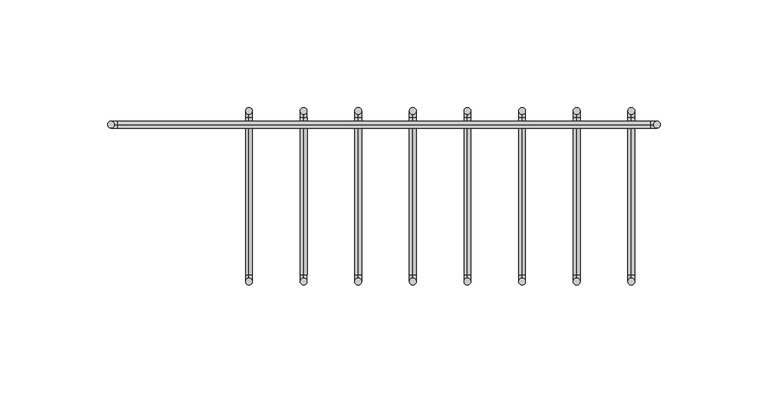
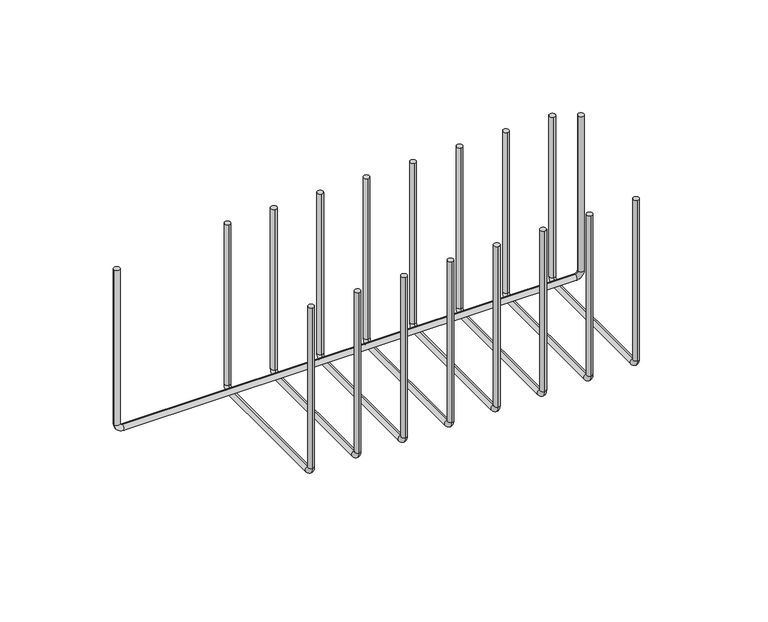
"""IFC4 building model written with IfcOpenShell, lengths in millimetres: furniture geometry."""

from ifc_helpers import new_model, si_unit, point, frame, origin, place, context, project, spatial, circle_curve, ellipse_curve, trimmed, source, transform, mapped, element, save
from ifc_brep_helpers import plane_surface, cylinder_surface, revolved_surface, advanced_brep


def furniture_d1ba1244(model_context):
    return source(origin(), model_context, "Body", "AdvancedBrep", [
        advanced_brep(
        [(115.00358, -82.4773724, 821.0042), (115.00358, -79.3023724, 821.0042), (115.00358, 0.0726276, 821.0042), (115.00358, -3.1023724, 821.0042), (115.00358, -82.4773724, 728.1359034), (115.00358, -79.3023724, 728.1359034), (115.00358, -77.7148724, 726.5484034), (115.00358, -77.7148724, 723.3734034), (115.00358, -4.6898724, 723.3734034), (115.00358, -4.6898724, 726.5484034), (115.00358, -3.1023724, 728.1359034), (115.00358, 0.0726276, 728.1359034)],
        [
            (0, 1, circle_curve(frame((115.00358, -80.8898724, 821.0042), z_axis=(0.0, 0.0, 1.0), x_axis=(1.0, 0.0, 0.0)), 1.5875)),
            (1, 0, circle_curve(frame((115.00358, -80.8898724, 821.0042), z_axis=(0.0, 0.0, 1.0), x_axis=(1.0, 0.0, 0.0)), 1.5875)),
            (2, 3, circle_curve(frame((115.00358, -1.5148724, 821.0042), z_axis=(0.0, 0.0, 1.0), x_axis=(1.0, 0.0, 0.0)), 1.5875)),
            (3, 2, circle_curve(frame((115.00358, -1.5148724, 821.0042), z_axis=(0.0, 0.0, 1.0), x_axis=(1.0, 0.0, 0.0)), 1.5875)),
            (0, 4),
            (4, 5, circle_curve(frame((115.00358, -80.8898724, 728.1359034), z_axis=(0.0, 0.0, 1.0), x_axis=(1.0, 0.0, 0.0)), 1.5875)),
            (5, 1),
            (5, 4, circle_curve(frame((115.00358, -80.8898724, 728.1359034), z_axis=(0.0, 0.0, 1.0), x_axis=(1.0, 0.0, 0.0)), 1.5875)),
            (6, 7, circle_curve(frame((115.00358, -77.7148724, 724.9609034), z_axis=(0.0, 1.0, 0.0), x_axis=(1.0, 0.0, 0.0)), 1.5875)),
            (7, 8),
            (8, 9, circle_curve(frame((115.00358, -4.6898724, 724.9609034), z_axis=(0.0, -1.0, 0.0), x_axis=(1.0, 0.0, 0.0)), 1.5875)),
            (9, 6),
            (7, 6, circle_curve(frame((115.00358, -77.7148724, 724.9609034), z_axis=(0.0, 1.0, 0.0), x_axis=(1.0, 0.0, 0.0)), 1.5875)),
            (9, 8, circle_curve(frame((115.00358, -4.6898724, 724.9609034), z_axis=(0.0, -1.0, 0.0), x_axis=(1.0, 0.0, 0.0)), 1.5875)),
            (10, 11, circle_curve(frame((115.00358, -1.5148724, 728.1359034), z_axis=(0.0, 0.0, 1.0), x_axis=(1.0, 0.0, 0.0)), 1.5875)),
            (11, 2),
            (3, 10),
            (11, 10, circle_curve(frame((115.00358, -1.5148724, 728.1359034), z_axis=(0.0, 0.0, 1.0), x_axis=(1.0, 0.0, 0.0)), 1.5875)),
            (6, 5, circle_curve(frame((115.00358, -77.7148724, 728.1359034), z_axis=(-1.0, 0.0, 0.0), x_axis=(0.0, -1.0, 0.0)), 1.5875)),
            (4, 7, circle_curve(frame((115.00358, -77.7148724, 728.1359034), z_axis=(1.0, 0.0, 0.0), x_axis=(0.0, -1.0, 0.0)), 4.7625)),
            (10, 9, circle_curve(frame((115.00358, -4.6898724, 728.1359034), z_axis=(-1.0, 0.0, 0.0), x_axis=(0.0, 0.0, -1.0)), 1.5875)),
            (8, 11, circle_curve(frame((115.00358, -4.6898724, 728.1359034), z_axis=(1.0, 0.0, 0.0), x_axis=(0.0, 0.0, -1.0)), 4.7625)),
        ],
        [
            plane_surface(frame((115.00358, -82.4773724, 821.0042), z_axis=(0.0, 0.0, 1.0), x_axis=(1.0, 0.0, 0.0))),
            plane_surface(frame((115.00358, 0.0726276, 821.0042), z_axis=(0.0, 0.0, 1.0), x_axis=(1.0, 0.0, 0.0))),
            cylinder_surface(frame((115.00358, -80.8898724, 821.0042), z_axis=(0.0, 0.0, 1.0), x_axis=(1.0, 0.0, 0.0)), 1.5875),
            cylinder_surface(frame((115.00358, -77.7148724, 724.9609034), z_axis=(0.0, -1.0, 0.0), x_axis=(1.0, 0.0, 0.0)), 1.5875),
            cylinder_surface(frame((115.00358, -1.5148724, 728.1359034), z_axis=(0.0, 0.0, -1.0), x_axis=(1.0, 0.0, 0.0)), 1.5875),
            revolved_surface(trimmed(ellipse_curve(frame((115.00358, -80.8898724, 728.1359034), z_axis=(0.0, 0.0, 1.0), x_axis=(1.0, 0.0, 0.0)), 1.5875, 1.5875), [point((115.00358, -82.4773724, 728.1359034))], [point((115.00358, -79.3023724, 728.1359034))], True, "CARTESIAN"), (115.00358, -77.7148724, 728.1359034), (1.0, 0.0, 0.0)),
            revolved_surface(trimmed(ellipse_curve(frame((115.00358, -80.8898724, 728.1359034), z_axis=(0.0, 0.0, 1.0), x_axis=(1.0, 0.0, 0.0)), 1.5875, 1.5875), [point((115.00358, -79.3023724, 728.1359034))], [point((115.00358, -82.4773724, 728.1359034))], True, "CARTESIAN"), (115.00358, -77.7148724, 728.1359034), (1.0, 0.0, 0.0)),
            revolved_surface(trimmed(ellipse_curve(frame((115.00358, -4.6898724, 724.9609034), z_axis=(0.0, -1.0, 0.0), x_axis=(1.0, 0.0, 0.0)), 1.5875, 1.5875), [point((115.00358, -4.6898724, 723.3734034))], [point((115.00358, -4.6898724, 726.5484034))], True, "CARTESIAN"), (115.00358, -4.6898724, 728.1359034), (1.0, 0.0, 0.0)),
            revolved_surface(trimmed(ellipse_curve(frame((115.00358, -4.6898724, 724.9609034), z_axis=(0.0, -1.0, 0.0), x_axis=(1.0, 0.0, 0.0)), 1.5875, 1.5875), [point((115.00358, -4.6898724, 726.5484034))], [point((115.00358, -4.6898724, 723.3734034))], True, "CARTESIAN"), (115.00358, -4.6898724, 728.1359034), (1.0, 0.0, 0.0)),
        ],
        [
            (0, [[1, 2]]),
            (1, [[3, 4]]),
            (2, [[-1, 5, 6, 7]]),
            (2, [[-2, -7, 8, -5]]),
            (3, [[9, 10, 11, 12]]),
            (3, [[13, -12, 14, -10]]),
            (4, [[15, 16, -4, 17]]),
            (4, [[18, -17, -3, -16]]),
            (5, [[19, -6, 20, -9]]),
            (6, [[-20, -8, -19, -13]]),
            (7, [[21, -11, 22, -15]]),
            (8, [[-22, -14, -21, -18]]),
        ],
    ),
        advanced_brep(
        [(89.60358, -82.4773724, 821.0042), (89.60358, -79.3023724, 821.0042), (89.60358, 0.0726276, 821.0042), (89.60358, -3.1023724, 821.0042), (89.60358, -82.4773724, 728.1359034), (89.60358, -79.3023724, 728.1359034), (89.60358, -77.7148724, 726.5484034), (89.60358, -77.7148724, 723.3734034), (89.60358, -4.6898724, 723.3734034), (89.60358, -4.6898724, 726.5484034), (89.60358, -3.1023724, 728.1359034), (89.60358, 0.0726276, 728.1359034)],
        [
            (0, 1, circle_curve(frame((89.60358, -80.8898724, 821.0042), z_axis=(0.0, 0.0, 1.0), x_axis=(1.0, 0.0, 0.0)), 1.5875)),
            (1, 0, circle_curve(frame((89.60358, -80.8898724, 821.0042), z_axis=(0.0, 0.0, 1.0), x_axis=(1.0, 0.0, 0.0)), 1.5875)),
            (2, 3, circle_curve(frame((89.60358, -1.5148724, 821.0042), z_axis=(0.0, 0.0, 1.0), x_axis=(1.0, 0.0, 0.0)), 1.5875)),
            (3, 2, circle_curve(frame((89.60358, -1.5148724, 821.0042), z_axis=(0.0, 0.0, 1.0), x_axis=(1.0, 0.0, 0.0)), 1.5875)),
            (0, 4),
            (4, 5, circle_curve(frame((89.60358, -80.8898724, 728.1359034), z_axis=(0.0, 0.0, 1.0), x_axis=(1.0, 0.0, 0.0)), 1.5875)),
            (5, 1),
            (5, 4, circle_curve(frame((89.60358, -80.8898724, 728.1359034), z_axis=(0.0, 0.0, 1.0), x_axis=(1.0, 0.0, 0.0)), 1.5875)),
            (6, 7, circle_curve(frame((89.60358, -77.7148724, 724.9609034), z_axis=(0.0, 1.0, 0.0), x_axis=(1.0, 0.0, 0.0)), 1.5875)),
            (7, 8),
            (8, 9, circle_curve(frame((89.60358, -4.6898724, 724.9609034), z_axis=(0.0, -1.0, 0.0), x_axis=(1.0, 0.0, 0.0)), 1.5875)),
            (9, 6),
            (7, 6, circle_curve(frame((89.60358, -77.7148724, 724.9609034), z_axis=(0.0, 1.0, 0.0), x_axis=(1.0, 0.0, 0.0)), 1.5875)),
            (9, 8, circle_curve(frame((89.60358, -4.6898724, 724.9609034), z_axis=(0.0, -1.0, 0.0), x_axis=(1.0, 0.0, 0.0)), 1.5875)),
            (10, 11, circle_curve(frame((89.60358, -1.5148724, 728.1359034), z_axis=(0.0, 0.0, 1.0), x_axis=(1.0, 0.0, 0.0)), 1.5875)),
            (11, 2),
            (3, 10),
            (11, 10, circle_curve(frame((89.60358, -1.5148724, 728.1359034), z_axis=(0.0, 0.0, 1.0), x_axis=(1.0, 0.0, 0.0)), 1.5875)),
            (6, 5, circle_curve(frame((89.60358, -77.7148724, 728.1359034), z_axis=(-1.0, 0.0, 0.0), x_axis=(0.0, -1.0, 0.0)), 1.5875)),
            (4, 7, circle_curve(frame((89.60358, -77.7148724, 728.1359034), z_axis=(1.0, 0.0, 0.0), x_axis=(0.0, -1.0, 0.0)), 4.7625)),
            (10, 9, circle_curve(frame((89.60358, -4.6898724, 728.1359034), z_axis=(-1.0, 0.0, 0.0), x_axis=(0.0, 0.0, -1.0)), 1.5875)),
            (8, 11, circle_curve(frame((89.60358, -4.6898724, 728.1359034), z_axis=(1.0, 0.0, 0.0), x_axis=(0.0, 0.0, -1.0)), 4.7625)),
        ],
        [
            plane_surface(frame((89.60358, -82.4773724, 821.0042), z_axis=(0.0, 0.0, 1.0), x_axis=(1.0, 0.0, 0.0))),
            plane_surface(frame((89.60358, 0.0726276, 821.0042), z_axis=(0.0, 0.0, 1.0), x_axis=(1.0, 0.0, 0.0))),
            cylinder_surface(frame((89.60358, -80.8898724, 821.0042), z_axis=(0.0, 0.0, 1.0), x_axis=(1.0, 0.0, 0.0)), 1.5875),
            cylinder_surface(frame((89.60358, -77.7148724, 724.9609034), z_axis=(0.0, -1.0, 0.0), x_axis=(1.0, 0.0, 0.0)), 1.5875),
            cylinder_surface(frame((89.60358, -1.5148724, 728.1359034), z_axis=(0.0, 0.0, -1.0), x_axis=(1.0, 0.0, 0.0)), 1.5875),
            revolved_surface(trimmed(ellipse_curve(frame((89.60358, -80.8898724, 728.1359034), z_axis=(0.0, 0.0, 1.0), x_axis=(1.0, 0.0, 0.0)), 1.5875, 1.5875), [point((89.60358, -82.4773724, 728.1359034))], [point((89.60358, -79.3023724, 728.1359034))], True, "CARTESIAN"), (89.60358, -77.7148724, 728.1359034), (1.0, 0.0, 0.0)),
            revolved_surface(trimmed(ellipse_curve(frame((89.60358, -80.8898724, 728.1359034), z_axis=(0.0, 0.0, 1.0), x_axis=(1.0, 0.0, 0.0)), 1.5875, 1.5875), [point((89.60358, -79.3023724, 728.1359034))], [point((89.60358, -82.4773724, 728.1359034))], True, "CARTESIAN"), (89.60358, -77.7148724, 728.1359034), (1.0, 0.0, 0.0)),
            revolved_surface(trimmed(ellipse_curve(frame((89.60358, -4.6898724, 724.9609034), z_axis=(0.0, -1.0, 0.0), x_axis=(1.0, 0.0, 0.0)), 1.5875, 1.5875), [point((89.60358, -4.6898724, 723.3734034))], [point((89.60358, -4.6898724, 726.5484034))], True, "CARTESIAN"), (89.60358, -4.6898724, 728.1359034), (1.0, 0.0, 0.0)),
            revolved_surface(trimmed(ellipse_curve(frame((89.60358, -4.6898724, 724.9609034), z_axis=(0.0, -1.0, 0.0), x_axis=(1.0, 0.0, 0.0)), 1.5875, 1.5875), [point((89.60358, -4.6898724, 726.5484034))], [point((89.60358, -4.6898724, 723.3734034))], True, "CARTESIAN"), (89.60358, -4.6898724, 728.1359034), (1.0, 0.0, 0.0)),
        ],
        [
            (0, [[1, 2]]),
            (1, [[3, 4]]),
            (2, [[-1, 5, 6, 7]]),
            (2, [[-2, -7, 8, -5]]),
            (3, [[9, 10, 11, 12]]),
            (3, [[13, -12, 14, -10]]),
            (4, [[15, 16, -4, 17]]),
            (4, [[18, -17, -3, -16]]),
            (5, [[19, -6, 20, -9]]),
            (6, [[-20, -8, -19, -13]]),
            (7, [[21, -11, 22, -15]]),
            (8, [[-22, -14, -21, -18]]),
        ],
    ),
        advanced_brep(
        [(64.20358, -82.4773724, 821.0042), (64.20358, -79.3023724, 821.0042), (64.20358, 0.0726276, 821.0042), (64.20358, -3.1023724, 821.0042), (64.20358, -82.4773724, 728.1359034), (64.20358, -79.3023724, 728.1359034), (64.20358, -77.7148724, 726.5484034), (64.20358, -77.7148724, 723.3734034), (64.20358, -4.6898724, 723.3734034), (64.20358, -4.6898724, 726.5484034), (64.20358, -3.1023724, 728.1359034), (64.20358, 0.0726276, 728.1359034)],
        [
            (0, 1, circle_curve(frame((64.20358, -80.8898724, 821.0042), z_axis=(0.0, 0.0, 1.0), x_axis=(1.0, 0.0, 0.0)), 1.5875)),
            (1, 0, circle_curve(frame((64.20358, -80.8898724, 821.0042), z_axis=(0.0, 0.0, 1.0), x_axis=(1.0, 0.0, 0.0)), 1.5875)),
            (2, 3, circle_curve(frame((64.20358, -1.5148724, 821.0042), z_axis=(0.0, 0.0, 1.0), x_axis=(1.0, 0.0, 0.0)), 1.5875)),
            (3, 2, circle_curve(frame((64.20358, -1.5148724, 821.0042), z_axis=(0.0, 0.0, 1.0), x_axis=(1.0, 0.0, 0.0)), 1.5875)),
            (0, 4),
            (4, 5, circle_curve(frame((64.20358, -80.8898724, 728.1359034), z_axis=(0.0, 0.0, 1.0), x_axis=(1.0, 0.0, 0.0)), 1.5875)),
            (5, 1),
            (5, 4, circle_curve(frame((64.20358, -80.8898724, 728.1359034), z_axis=(0.0, 0.0, 1.0), x_axis=(1.0, 0.0, 0.0)), 1.5875)),
            (6, 7, circle_curve(frame((64.20358, -77.7148724, 724.9609034), z_axis=(0.0, 1.0, 0.0), x_axis=(1.0, 0.0, 0.0)), 1.5875)),
            (7, 8),
            (8, 9, circle_curve(frame((64.20358, -4.6898724, 724.9609034), z_axis=(0.0, -1.0, 0.0), x_axis=(1.0, 0.0, 0.0)), 1.5875)),
            (9, 6),
            (7, 6, circle_curve(frame((64.20358, -77.7148724, 724.9609034), z_axis=(0.0, 1.0, 0.0), x_axis=(1.0, 0.0, 0.0)), 1.5875)),
            (9, 8, circle_curve(frame((64.20358, -4.6898724, 724.9609034), z_axis=(0.0, -1.0, 0.0), x_axis=(1.0, 0.0, 0.0)), 1.5875)),
            (10, 11, circle_curve(frame((64.20358, -1.5148724, 728.1359034), z_axis=(0.0, 0.0, 1.0), x_axis=(1.0, 0.0, 0.0)), 1.5875)),
            (11, 2),
            (3, 10),
            (11, 10, circle_curve(frame((64.20358, -1.5148724, 728.1359034), z_axis=(0.0, 0.0, 1.0), x_axis=(1.0, 0.0, 0.0)), 1.5875)),
            (6, 5, circle_curve(frame((64.20358, -77.7148724, 728.1359034), z_axis=(-1.0, 0.0, 0.0), x_axis=(0.0, -1.0, 0.0)), 1.5875)),
            (4, 7, circle_curve(frame((64.20358, -77.7148724, 728.1359034), z_axis=(1.0, 0.0, 0.0), x_axis=(0.0, -1.0, 0.0)), 4.7625)),
            (10, 9, circle_curve(frame((64.20358, -4.6898724, 728.1359034), z_axis=(-1.0, 0.0, 0.0), x_axis=(0.0, 0.0, -1.0)), 1.5875)),
            (8, 11, circle_curve(frame((64.20358, -4.6898724, 728.1359034), z_axis=(1.0, 0.0, 0.0), x_axis=(0.0, 0.0, -1.0)), 4.7625)),
        ],
        [
            plane_surface(frame((64.20358, -82.4773724, 821.0042), z_axis=(0.0, 0.0, 1.0), x_axis=(1.0, 0.0, 0.0))),
            plane_surface(frame((64.20358, 0.0726276, 821.0042), z_axis=(0.0, 0.0, 1.0), x_axis=(1.0, 0.0, 0.0))),
            cylinder_surface(frame((64.20358, -80.8898724, 821.0042), z_axis=(0.0, 0.0, 1.0), x_axis=(1.0, 0.0, 0.0)), 1.5875),
            cylinder_surface(frame((64.20358, -77.7148724, 724.9609034), z_axis=(0.0, -1.0, 0.0), x_axis=(1.0, 0.0, 0.0)), 1.5875),
            cylinder_surface(frame((64.20358, -1.5148724, 728.1359034), z_axis=(0.0, 0.0, -1.0), x_axis=(1.0, 0.0, 0.0)), 1.5875),
            revolved_surface(trimmed(ellipse_curve(frame((64.20358, -80.8898724, 728.1359034), z_axis=(0.0, 0.0, 1.0), x_axis=(1.0, 0.0, 0.0)), 1.5875, 1.5875), [point((64.20358, -82.4773724, 728.1359034))], [point((64.20358, -79.3023724, 728.1359034))], True, "CARTESIAN"), (64.20358, -77.7148724, 728.1359034), (1.0, 0.0, 0.0)),
            revolved_surface(trimmed(ellipse_curve(frame((64.20358, -80.8898724, 728.1359034), z_axis=(0.0, 0.0, 1.0), x_axis=(1.0, 0.0, 0.0)), 1.5875, 1.5875), [point((64.20358, -79.3023724, 728.1359034))], [point((64.20358, -82.4773724, 728.1359034))], True, "CARTESIAN"), (64.20358, -77.7148724, 728.1359034), (1.0, 0.0, 0.0)),
            revolved_surface(trimmed(ellipse_curve(frame((64.20358, -4.6898724, 724.9609034), z_axis=(0.0, -1.0, 0.0), x_axis=(1.0, 0.0, 0.0)), 1.5875, 1.5875), [point((64.20358, -4.6898724, 723.3734034))], [point((64.20358, -4.6898724, 726.5484034))], True, "CARTESIAN"), (64.20358, -4.6898724, 728.1359034), (1.0, 0.0, 0.0)),
            revolved_surface(trimmed(ellipse_curve(frame((64.20358, -4.6898724, 724.9609034), z_axis=(0.0, -1.0, 0.0), x_axis=(1.0, 0.0, 0.0)), 1.5875, 1.5875), [point((64.20358, -4.6898724, 726.5484034))], [point((64.20358, -4.6898724, 723.3734034))], True, "CARTESIAN"), (64.20358, -4.6898724, 728.1359034), (1.0, 0.0, 0.0)),
        ],
        [
            (0, [[1, 2]]),
            (1, [[3, 4]]),
            (2, [[-1, 5, 6, 7]]),
            (2, [[-2, -7, 8, -5]]),
            (3, [[9, 10, 11, 12]]),
            (3, [[13, -12, 14, -10]]),
            (4, [[15, 16, -4, 17]]),
            (4, [[18, -17, -3, -16]]),
            (5, [[19, -6, 20, -9]]),
            (6, [[-20, -8, -19, -13]]),
            (7, [[21, -11, 22, -15]]),
            (8, [[-22, -14, -21, -18]]),
        ],
    ),
        advanced_brep(
        [(38.80358, -82.4773724, 821.0042), (38.80358, -79.3023724, 821.0042), (38.80358, 0.0726276, 821.0042), (38.80358, -3.1023724, 821.0042), (38.80358, -82.4773724, 728.1359034), (38.80358, -79.3023724, 728.1359034), (38.80358, -77.7148724, 726.5484034), (38.80358, -77.7148724, 723.3734034), (38.80358, -4.6898724, 723.3734034), (38.80358, -4.6898724, 726.5484034), (38.80358, -3.1023724, 728.1359034), (38.80358, 0.0726276, 728.1359034)],
        [
            (0, 1, circle_curve(frame((38.80358, -80.8898724, 821.0042), z_axis=(0.0, 0.0, 1.0), x_axis=(1.0, 0.0, 0.0)), 1.5875)),
            (1, 0, circle_curve(frame((38.80358, -80.8898724, 821.0042), z_axis=(0.0, 0.0, 1.0), x_axis=(1.0, 0.0, 0.0)), 1.5875)),
            (2, 3, circle_curve(frame((38.80358, -1.5148724, 821.0042), z_axis=(0.0, 0.0, 1.0), x_axis=(1.0, 0.0, 0.0)), 1.5875)),
            (3, 2, circle_curve(frame((38.80358, -1.5148724, 821.0042), z_axis=(0.0, 0.0, 1.0), x_axis=(1.0, 0.0, 0.0)), 1.5875)),
            (0, 4),
            (4, 5, circle_curve(frame((38.80358, -80.8898724, 728.1359034), z_axis=(0.0, 0.0, 1.0), x_axis=(1.0, 0.0, 0.0)), 1.5875)),
            (5, 1),
            (5, 4, circle_curve(frame((38.80358, -80.8898724, 728.1359034), z_axis=(0.0, 0.0, 1.0), x_axis=(1.0, 0.0, 0.0)), 1.5875)),
            (6, 7, circle_curve(frame((38.80358, -77.7148724, 724.9609034), z_axis=(0.0, 1.0, 0.0), x_axis=(1.0, 0.0, 0.0)), 1.5875)),
            (7, 8),
            (8, 9, circle_curve(frame((38.80358, -4.6898724, 724.9609034), z_axis=(0.0, -1.0, 0.0), x_axis=(1.0, 0.0, 0.0)), 1.5875)),
            (9, 6),
            (7, 6, circle_curve(frame((38.80358, -77.7148724, 724.9609034), z_axis=(0.0, 1.0, 0.0), x_axis=(1.0, 0.0, 0.0)), 1.5875)),
            (9, 8, circle_curve(frame((38.80358, -4.6898724, 724.9609034), z_axis=(0.0, -1.0, 0.0), x_axis=(1.0, 0.0, 0.0)), 1.5875)),
            (10, 11, circle_curve(frame((38.80358, -1.5148724, 728.1359034), z_axis=(0.0, 0.0, 1.0), x_axis=(1.0, 0.0, 0.0)), 1.5875)),
            (11, 2),
            (3, 10),
            (11, 10, circle_curve(frame((38.80358, -1.5148724, 728.1359034), z_axis=(0.0, 0.0, 1.0), x_axis=(1.0, 0.0, 0.0)), 1.5875)),
            (6, 5, circle_curve(frame((38.80358, -77.7148724, 728.1359034), z_axis=(-1.0, 0.0, 0.0), x_axis=(0.0, -1.0, 0.0)), 1.5875)),
            (4, 7, circle_curve(frame((38.80358, -77.7148724, 728.1359034), z_axis=(1.0, 0.0, 0.0), x_axis=(0.0, -1.0, 0.0)), 4.7625)),
            (10, 9, circle_curve(frame((38.80358, -4.6898724, 728.1359034), z_axis=(-1.0, 0.0, 0.0), x_axis=(0.0, 0.0, -1.0)), 1.5875)),
            (8, 11, circle_curve(frame((38.80358, -4.6898724, 728.1359034), z_axis=(1.0, 0.0, 0.0), x_axis=(0.0, 0.0, -1.0)), 4.7625)),
        ],
        [
            plane_surface(frame((38.80358, -82.4773724, 821.0042), z_axis=(0.0, 0.0, 1.0), x_axis=(1.0, 0.0, 0.0))),
            plane_surface(frame((38.80358, 0.0726276, 821.0042), z_axis=(0.0, 0.0, 1.0), x_axis=(1.0, 0.0, 0.0))),
            cylinder_surface(frame((38.80358, -80.8898724, 821.0042), z_axis=(0.0, 0.0, 1.0), x_axis=(1.0, 0.0, 0.0)), 1.5875),
            cylinder_surface(frame((38.80358, -77.7148724, 724.9609034), z_axis=(0.0, -1.0, 0.0), x_axis=(1.0, 0.0, 0.0)), 1.5875),
            cylinder_surface(frame((38.80358, -1.5148724, 728.1359034), z_axis=(0.0, 0.0, -1.0), x_axis=(1.0, 0.0, 0.0)), 1.5875),
            revolved_surface(trimmed(ellipse_curve(frame((38.80358, -80.8898724, 728.1359034), z_axis=(0.0, 0.0, 1.0), x_axis=(1.0, 0.0, 0.0)), 1.5875, 1.5875), [point((38.80358, -82.4773724, 728.1359034))], [point((38.80358, -79.3023724, 728.1359034))], True, "CARTESIAN"), (38.80358, -77.7148724, 728.1359034), (1.0, 0.0, 0.0)),
            revolved_surface(trimmed(ellipse_curve(frame((38.80358, -80.8898724, 728.1359034), z_axis=(0.0, 0.0, 1.0), x_axis=(1.0, 0.0, 0.0)), 1.5875, 1.5875), [point((38.80358, -79.3023724, 728.1359034))], [point((38.80358, -82.4773724, 728.1359034))], True, "CARTESIAN"), (38.80358, -77.7148724, 728.1359034), (1.0, 0.0, 0.0)),
            revolved_surface(trimmed(ellipse_curve(frame((38.80358, -4.6898724, 724.9609034), z_axis=(0.0, -1.0, 0.0), x_axis=(1.0, 0.0, 0.0)), 1.5875, 1.5875), [point((38.80358, -4.6898724, 723.3734034))], [point((38.80358, -4.6898724, 726.5484034))], True, "CARTESIAN"), (38.80358, -4.6898724, 728.1359034), (1.0, 0.0, 0.0)),
            revolved_surface(trimmed(ellipse_curve(frame((38.80358, -4.6898724, 724.9609034), z_axis=(0.0, -1.0, 0.0), x_axis=(1.0, 0.0, 0.0)), 1.5875, 1.5875), [point((38.80358, -4.6898724, 726.5484034))], [point((38.80358, -4.6898724, 723.3734034))], True, "CARTESIAN"), (38.80358, -4.6898724, 728.1359034), (1.0, 0.0, 0.0)),
        ],
        [
            (0, [[1, 2]]),
            (1, [[3, 4]]),
            (2, [[-1, 5, 6, 7]]),
            (2, [[-2, -7, 8, -5]]),
            (3, [[9, 10, 11, 12]]),
            (3, [[13, -12, 14, -10]]),
            (4, [[15, 16, -4, 17]]),
            (4, [[18, -17, -3, -16]]),
            (5, [[19, -6, 20, -9]]),
            (6, [[-20, -8, -19, -13]]),
            (7, [[21, -11, 22, -15]]),
            (8, [[-22, -14, -21, -18]]),
        ],
    ),
        advanced_brep(
        [(13.40358, -82.4773724, 821.0042), (13.40358, -79.3023724, 821.0042), (13.40358, 0.0726276, 821.0042), (13.40358, -3.1023724, 821.0042), (13.40358, -82.4773724, 728.1359034), (13.40358, -79.3023724, 728.1359034), (13.40358, -77.7148724, 726.5484034), (13.40358, -77.7148724, 723.3734034), (13.40358, -4.6898724, 723.3734034), (13.40358, -4.6898724, 726.5484034), (13.40358, -3.1023724, 728.1359034), (13.40358, 0.0726276, 728.1359034)],
        [
            (0, 1, circle_curve(frame((13.40358, -80.8898724, 821.0042), z_axis=(0.0, 0.0, 1.0), x_axis=(1.0, 0.0, 0.0)), 1.5875)),
            (1, 0, circle_curve(frame((13.40358, -80.8898724, 821.0042), z_axis=(0.0, 0.0, 1.0), x_axis=(1.0, 0.0, 0.0)), 1.5875)),
            (2, 3, circle_curve(frame((13.40358, -1.5148724, 821.0042), z_axis=(0.0, 0.0, 1.0), x_axis=(1.0, 0.0, 0.0)), 1.5875)),
            (3, 2, circle_curve(frame((13.40358, -1.5148724, 821.0042), z_axis=(0.0, 0.0, 1.0), x_axis=(1.0, 0.0, 0.0)), 1.5875)),
            (0, 4),
            (4, 5, circle_curve(frame((13.40358, -80.8898724, 728.1359034), z_axis=(0.0, 0.0, 1.0), x_axis=(1.0, 0.0, 0.0)), 1.5875)),
            (5, 1),
            (5, 4, circle_curve(frame((13.40358, -80.8898724, 728.1359034), z_axis=(0.0, 0.0, 1.0), x_axis=(1.0, 0.0, 0.0)), 1.5875)),
            (6, 7, circle_curve(frame((13.40358, -77.7148724, 724.9609034), z_axis=(0.0, 1.0, 0.0), x_axis=(1.0, 0.0, 0.0)), 1.5875)),
            (7, 8),
            (8, 9, circle_curve(frame((13.40358, -4.6898724, 724.9609034), z_axis=(0.0, -1.0, 0.0), x_axis=(1.0, 0.0, 0.0)), 1.5875)),
            (9, 6),
            (7, 6, circle_curve(frame((13.40358, -77.7148724, 724.9609034), z_axis=(0.0, 1.0, 0.0), x_axis=(1.0, 0.0, 0.0)), 1.5875)),
            (9, 8, circle_curve(frame((13.40358, -4.6898724, 724.9609034), z_axis=(0.0, -1.0, 0.0), x_axis=(1.0, 0.0, 0.0)), 1.5875)),
            (10, 11, circle_curve(frame((13.40358, -1.5148724, 728.1359034), z_axis=(0.0, 0.0, 1.0), x_axis=(1.0, 0.0, 0.0)), 1.5875)),
            (11, 2),
            (3, 10),
            (11, 10, circle_curve(frame((13.40358, -1.5148724, 728.1359034), z_axis=(0.0, 0.0, 1.0), x_axis=(1.0, 0.0, 0.0)), 1.5875)),
            (6, 5, circle_curve(frame((13.40358, -77.7148724, 728.1359034), z_axis=(-1.0, 0.0, 0.0), x_axis=(0.0, -1.0, 0.0)), 1.5875)),
            (4, 7, circle_curve(frame((13.40358, -77.7148724, 728.1359034), z_axis=(1.0, 0.0, 0.0), x_axis=(0.0, -1.0, 0.0)), 4.7625)),
            (10, 9, circle_curve(frame((13.40358, -4.6898724, 728.1359034), z_axis=(-1.0, 0.0, 0.0), x_axis=(0.0, 0.0, -1.0)), 1.5875)),
            (8, 11, circle_curve(frame((13.40358, -4.6898724, 728.1359034), z_axis=(1.0, 0.0, 0.0), x_axis=(0.0, 0.0, -1.0)), 4.7625)),
        ],
        [
            plane_surface(frame((13.40358, -82.4773724, 821.0042), z_axis=(0.0, 0.0, 1.0), x_axis=(1.0, 0.0, 0.0))),
            plane_surface(frame((13.40358, 0.0726276, 821.0042), z_axis=(0.0, 0.0, 1.0), x_axis=(1.0, 0.0, 0.0))),
            cylinder_surface(frame((13.40358, -80.8898724, 821.0042), z_axis=(0.0, 0.0, 1.0), x_axis=(1.0, 0.0, 0.0)), 1.5875),
            cylinder_surface(frame((13.40358, -77.7148724, 724.9609034), z_axis=(0.0, -1.0, 0.0), x_axis=(1.0, 0.0, 0.0)), 1.5875),
            cylinder_surface(frame((13.40358, -1.5148724, 728.1359034), z_axis=(0.0, 0.0, -1.0), x_axis=(1.0, 0.0, 0.0)), 1.5875),
            revolved_surface(trimmed(ellipse_curve(frame((13.40358, -80.8898724, 728.1359034), z_axis=(0.0, 0.0, 1.0), x_axis=(1.0, 0.0, 0.0)), 1.5875, 1.5875), [point((13.40358, -82.4773724, 728.1359034))], [point((13.40358, -79.3023724, 728.1359034))], True, "CARTESIAN"), (13.40358, -77.7148724, 728.1359034), (1.0, 0.0, 0.0)),
            revolved_surface(trimmed(ellipse_curve(frame((13.40358, -80.8898724, 728.1359034), z_axis=(0.0, 0.0, 1.0), x_axis=(1.0, 0.0, 0.0)), 1.5875, 1.5875), [point((13.40358, -79.3023724, 728.1359034))], [point((13.40358, -82.4773724, 728.1359034))], True, "CARTESIAN"), (13.40358, -77.7148724, 728.1359034), (1.0, 0.0, 0.0)),
            revolved_surface(trimmed(ellipse_curve(frame((13.40358, -4.6898724, 724.9609034), z_axis=(0.0, -1.0, 0.0), x_axis=(1.0, 0.0, 0.0)), 1.5875, 1.5875), [point((13.40358, -4.6898724, 723.3734034))], [point((13.40358, -4.6898724, 726.5484034))], True, "CARTESIAN"), (13.40358, -4.6898724, 728.1359034), (1.0, 0.0, 0.0)),
            revolved_surface(trimmed(ellipse_curve(frame((13.40358, -4.6898724, 724.9609034), z_axis=(0.0, -1.0, 0.0), x_axis=(1.0, 0.0, 0.0)), 1.5875, 1.5875), [point((13.40358, -4.6898724, 726.5484034))], [point((13.40358, -4.6898724, 723.3734034))], True, "CARTESIAN"), (13.40358, -4.6898724, 728.1359034), (1.0, 0.0, 0.0)),
        ],
        [
            (0, [[1, 2]]),
            (1, [[3, 4]]),
            (2, [[-1, 5, 6, 7]]),
            (2, [[-2, -7, 8, -5]]),
            (3, [[9, 10, 11, 12]]),
            (3, [[13, -12, 14, -10]]),
            (4, [[15, 16, -4, 17]]),
            (4, [[18, -17, -3, -16]]),
            (5, [[19, -6, 20, -9]]),
            (6, [[-20, -8, -19, -13]]),
            (7, [[21, -11, 22, -15]]),
            (8, [[-22, -14, -21, -18]]),
        ],
    ),
        advanced_brep(
        [(-11.99642, -82.4773724, 821.0042), (-11.99642, -79.3023724, 821.0042), (-11.99642, 0.0726276, 821.0042), (-11.99642, -3.1023724, 821.0042), (-11.99642, -82.4773724, 728.1359034), (-11.99642, -79.3023724, 728.1359034), (-11.99642, -77.7148724, 726.5484034), (-11.99642, -77.7148724, 723.3734034), (-11.99642, -4.6898724, 723.3734034), (-11.99642, -4.6898724, 726.5484034), (-11.99642, -3.1023724, 728.1359034), (-11.99642, 0.0726276, 728.1359034)],
        [
            (0, 1, circle_curve(frame((-11.99642, -80.8898724, 821.0042), z_axis=(0.0, 0.0, 1.0), x_axis=(1.0, 0.0, 0.0)), 1.5875)),
            (1, 0, circle_curve(frame((-11.99642, -80.8898724, 821.0042), z_axis=(0.0, 0.0, 1.0), x_axis=(1.0, 0.0, 0.0)), 1.5875)),
            (2, 3, circle_curve(frame((-11.99642, -1.5148724, 821.0042), z_axis=(0.0, 0.0, 1.0), x_axis=(1.0, 0.0, 0.0)), 1.5875)),
            (3, 2, circle_curve(frame((-11.99642, -1.5148724, 821.0042), z_axis=(0.0, 0.0, 1.0), x_axis=(1.0, 0.0, 0.0)), 1.5875)),
            (0, 4),
            (4, 5, circle_curve(frame((-11.99642, -80.8898724, 728.1359034), z_axis=(0.0, 0.0, 1.0), x_axis=(1.0, 0.0, 0.0)), 1.5875)),
            (5, 1),
            (5, 4, circle_curve(frame((-11.99642, -80.8898724, 728.1359034), z_axis=(0.0, 0.0, 1.0), x_axis=(1.0, 0.0, 0.0)), 1.5875)),
            (6, 7, circle_curve(frame((-11.99642, -77.7148724, 724.9609034), z_axis=(0.0, 1.0, 0.0), x_axis=(1.0, 0.0, 0.0)), 1.5875)),
            (7, 8),
            (8, 9, circle_curve(frame((-11.99642, -4.6898724, 724.9609034), z_axis=(0.0, -1.0, 0.0), x_axis=(1.0, 0.0, 0.0)), 1.5875)),
            (9, 6),
            (7, 6, circle_curve(frame((-11.99642, -77.7148724, 724.9609034), z_axis=(0.0, 1.0, 0.0), x_axis=(1.0, 0.0, 0.0)), 1.5875)),
            (9, 8, circle_curve(frame((-11.99642, -4.6898724, 724.9609034), z_axis=(0.0, -1.0, 0.0), x_axis=(1.0, 0.0, 0.0)), 1.5875)),
            (10, 11, circle_curve(frame((-11.99642, -1.5148724, 728.1359034), z_axis=(0.0, 0.0, 1.0), x_axis=(1.0, 0.0, 0.0)), 1.5875)),
            (11, 2),
            (3, 10),
            (11, 10, circle_curve(frame((-11.99642, -1.5148724, 728.1359034), z_axis=(0.0, 0.0, 1.0), x_axis=(1.0, 0.0, 0.0)), 1.5875)),
            (6, 5, circle_curve(frame((-11.99642, -77.7148724, 728.1359034), z_axis=(-1.0, 0.0, 0.0), x_axis=(0.0, -1.0, 0.0)), 1.5875)),
            (4, 7, circle_curve(frame((-11.99642, -77.7148724, 728.1359034), z_axis=(1.0, 0.0, 0.0), x_axis=(0.0, -1.0, 0.0)), 4.7625)),
            (10, 9, circle_curve(frame((-11.99642, -4.6898724, 728.1359034), z_axis=(-1.0, 0.0, 0.0), x_axis=(0.0, 0.0, -1.0)), 1.5875)),
            (8, 11, circle_curve(frame((-11.99642, -4.6898724, 728.1359034), z_axis=(1.0, 0.0, 0.0), x_axis=(0.0, 0.0, -1.0)), 4.7625)),
        ],
        [
            plane_surface(frame((-11.99642, -82.4773724, 821.0042), z_axis=(0.0, 0.0, 1.0), x_axis=(1.0, 0.0, 0.0))),
            plane_surface(frame((-11.99642, 0.0726276, 821.0042), z_axis=(0.0, 0.0, 1.0), x_axis=(1.0, 0.0, 0.0))),
            cylinder_surface(frame((-11.99642, -80.8898724, 821.0042), z_axis=(0.0, 0.0, 1.0), x_axis=(1.0, 0.0, 0.0)), 1.5875),
            cylinder_surface(frame((-11.99642, -77.7148724, 724.9609034), z_axis=(0.0, -1.0, 0.0), x_axis=(1.0, 0.0, 0.0)), 1.5875),
            cylinder_surface(frame((-11.99642, -1.5148724, 728.1359034), z_axis=(0.0, 0.0, -1.0), x_axis=(1.0, 0.0, 0.0)), 1.5875),
            revolved_surface(trimmed(ellipse_curve(frame((-11.99642, -80.8898724, 728.1359034), z_axis=(0.0, 0.0, 1.0), x_axis=(1.0, 0.0, 0.0)), 1.5875, 1.5875), [point((-11.99642, -82.4773724, 728.1359034))], [point((-11.99642, -79.3023724, 728.1359034))], True, "CARTESIAN"), (-11.99642, -77.7148724, 728.1359034), (1.0, 0.0, 0.0)),
            revolved_surface(trimmed(ellipse_curve(frame((-11.99642, -80.8898724, 728.1359034), z_axis=(0.0, 0.0, 1.0), x_axis=(1.0, 0.0, 0.0)), 1.5875, 1.5875), [point((-11.99642, -79.3023724, 728.1359034))], [point((-11.99642, -82.4773724, 728.1359034))], True, "CARTESIAN"), (-11.99642, -77.7148724, 728.1359034), (1.0, 0.0, 0.0)),
            revolved_surface(trimmed(ellipse_curve(frame((-11.99642, -4.6898724, 724.9609034), z_axis=(0.0, -1.0, 0.0), x_axis=(1.0, 0.0, 0.0)), 1.5875, 1.5875), [point((-11.99642, -4.6898724, 723.3734034))], [point((-11.99642, -4.6898724, 726.5484034))], True, "CARTESIAN"), (-11.99642, -4.6898724, 728.1359034), (1.0, 0.0, 0.0)),
            revolved_surface(trimmed(ellipse_curve(frame((-11.99642, -4.6898724, 724.9609034), z_axis=(0.0, -1.0, 0.0), x_axis=(1.0, 0.0, 0.0)), 1.5875, 1.5875), [point((-11.99642, -4.6898724, 726.5484034))], [point((-11.99642, -4.6898724, 723.3734034))], True, "CARTESIAN"), (-11.99642, -4.6898724, 728.1359034), (1.0, 0.0, 0.0)),
        ],
        [
            (0, [[1, 2]]),
            (1, [[3, 4]]),
            (2, [[-1, 5, 6, 7]]),
            (2, [[-2, -7, 8, -5]]),
            (3, [[9, 10, 11, 12]]),
            (3, [[13, -12, 14, -10]]),
            (4, [[15, 16, -4, 17]]),
            (4, [[18, -17, -3, -16]]),
            (5, [[19, -6, 20, -9]]),
            (6, [[-20, -8, -19, -13]]),
            (7, [[21, -11, 22, -15]]),
            (8, [[-22, -14, -21, -18]]),
        ],
    ),
        advanced_brep(
        [(-37.39642, -82.4773724, 821.0042), (-37.39642, -79.3023724, 821.0042), (-37.39642, 0.0726276, 821.0042), (-37.39642, -3.1023724, 821.0042), (-37.39642, -82.4773724, 728.1359034), (-37.39642, -79.3023724, 728.1359034), (-37.39642, -77.7148724, 726.5484034), (-37.39642, -77.7148724, 723.3734034), (-37.39642, -4.6898724, 723.3734034), (-37.39642, -4.6898724, 726.5484034), (-37.39642, -3.1023724, 728.1359034), (-37.39642, 0.0726276, 728.1359034)],
        [
            (0, 1, circle_curve(frame((-37.39642, -80.8898724, 821.0042), z_axis=(0.0, 0.0, 1.0), x_axis=(1.0, 0.0, 0.0)), 1.5875)),
            (1, 0, circle_curve(frame((-37.39642, -80.8898724, 821.0042), z_axis=(0.0, 0.0, 1.0), x_axis=(1.0, 0.0, 0.0)), 1.5875)),
            (2, 3, circle_curve(frame((-37.39642, -1.5148724, 821.0042), z_axis=(0.0, 0.0, 1.0), x_axis=(1.0, 0.0, 0.0)), 1.5875)),
            (3, 2, circle_curve(frame((-37.39642, -1.5148724, 821.0042), z_axis=(0.0, 0.0, 1.0), x_axis=(1.0, 0.0, 0.0)), 1.5875)),
            (0, 4),
            (4, 5, circle_curve(frame((-37.39642, -80.8898724, 728.1359034), z_axis=(0.0, 0.0, 1.0), x_axis=(1.0, 0.0, 0.0)), 1.5875)),
            (5, 1),
            (5, 4, circle_curve(frame((-37.39642, -80.8898724, 728.1359034), z_axis=(0.0, 0.0, 1.0), x_axis=(1.0, 0.0, 0.0)), 1.5875)),
            (6, 7, circle_curve(frame((-37.39642, -77.7148724, 724.9609034), z_axis=(0.0, 1.0, 0.0), x_axis=(1.0, 0.0, 0.0)), 1.5875)),
            (7, 8),
            (8, 9, circle_curve(frame((-37.39642, -4.6898724, 724.9609034), z_axis=(0.0, -1.0, 0.0), x_axis=(1.0, 0.0, 0.0)), 1.5875)),
            (9, 6),
            (7, 6, circle_curve(frame((-37.39642, -77.7148724, 724.9609034), z_axis=(0.0, 1.0, 0.0), x_axis=(1.0, 0.0, 0.0)), 1.5875)),
            (9, 8, circle_curve(frame((-37.39642, -4.6898724, 724.9609034), z_axis=(0.0, -1.0, 0.0), x_axis=(1.0, 0.0, 0.0)), 1.5875)),
            (10, 11, circle_curve(frame((-37.39642, -1.5148724, 728.1359034), z_axis=(0.0, 0.0, 1.0), x_axis=(1.0, 0.0, 0.0)), 1.5875)),
            (11, 2),
            (3, 10),
            (11, 10, circle_curve(frame((-37.39642, -1.5148724, 728.1359034), z_axis=(0.0, 0.0, 1.0), x_axis=(1.0, 0.0, 0.0)), 1.5875)),
            (6, 5, circle_curve(frame((-37.39642, -77.7148724, 728.1359034), z_axis=(-1.0, 0.0, 0.0), x_axis=(0.0, -1.0, 0.0)), 1.5875)),
            (4, 7, circle_curve(frame((-37.39642, -77.7148724, 728.1359034), z_axis=(1.0, 0.0, 0.0), x_axis=(0.0, -1.0, 0.0)), 4.7625)),
            (10, 9, circle_curve(frame((-37.39642, -4.6898724, 728.1359034), z_axis=(-1.0, 0.0, 0.0), x_axis=(0.0, 0.0, -1.0)), 1.5875)),
            (8, 11, circle_curve(frame((-37.39642, -4.6898724, 728.1359034), z_axis=(1.0, 0.0, 0.0), x_axis=(0.0, 0.0, -1.0)), 4.7625)),
        ],
        [
            plane_surface(frame((-37.39642, -82.4773724, 821.0042), z_axis=(0.0, 0.0, 1.0), x_axis=(1.0, 0.0, 0.0))),
            plane_surface(frame((-37.39642, 0.0726276, 821.0042), z_axis=(0.0, 0.0, 1.0), x_axis=(1.0, 0.0, 0.0))),
            cylinder_surface(frame((-37.39642, -80.8898724, 821.0042), z_axis=(0.0, 0.0, 1.0), x_axis=(1.0, 0.0, 0.0)), 1.5875),
            cylinder_surface(frame((-37.39642, -77.7148724, 724.9609034), z_axis=(0.0, -1.0, 0.0), x_axis=(1.0, 0.0, 0.0)), 1.5875),
            cylinder_surface(frame((-37.39642, -1.5148724, 728.1359034), z_axis=(0.0, 0.0, -1.0), x_axis=(1.0, 0.0, 0.0)), 1.5875),
            revolved_surface(trimmed(ellipse_curve(frame((-37.39642, -80.8898724, 728.1359034), z_axis=(0.0, 0.0, 1.0), x_axis=(1.0, 0.0, 0.0)), 1.5875, 1.5875), [point((-37.39642, -82.4773724, 728.1359034))], [point((-37.39642, -79.3023724, 728.1359034))], True, "CARTESIAN"), (-37.39642, -77.7148724, 728.1359034), (1.0, 0.0, 0.0)),
            revolved_surface(trimmed(ellipse_curve(frame((-37.39642, -80.8898724, 728.1359034), z_axis=(0.0, 0.0, 1.0), x_axis=(1.0, 0.0, 0.0)), 1.5875, 1.5875), [point((-37.39642, -79.3023724, 728.1359034))], [point((-37.39642, -82.4773724, 728.1359034))], True, "CARTESIAN"), (-37.39642, -77.7148724, 728.1359034), (1.0, 0.0, 0.0)),
            revolved_surface(trimmed(ellipse_curve(frame((-37.39642, -4.6898724, 724.9609034), z_axis=(0.0, -1.0, 0.0), x_axis=(1.0, 0.0, 0.0)), 1.5875, 1.5875), [point((-37.39642, -4.6898724, 723.3734034))], [point((-37.39642, -4.6898724, 726.5484034))], True, "CARTESIAN"), (-37.39642, -4.6898724, 728.1359034), (1.0, 0.0, 0.0)),
            revolved_surface(trimmed(ellipse_curve(frame((-37.39642, -4.6898724, 724.9609034), z_axis=(0.0, -1.0, 0.0), x_axis=(1.0, 0.0, 0.0)), 1.5875, 1.5875), [point((-37.39642, -4.6898724, 726.5484034))], [point((-37.39642, -4.6898724, 723.3734034))], True, "CARTESIAN"), (-37.39642, -4.6898724, 728.1359034), (1.0, 0.0, 0.0)),
        ],
        [
            (0, [[1, 2]]),
            (1, [[3, 4]]),
            (2, [[-1, 5, 6, 7]]),
            (2, [[-2, -7, 8, -5]]),
            (3, [[9, 10, 11, 12]]),
            (3, [[13, -12, 14, -10]]),
            (4, [[15, 16, -4, 17]]),
            (4, [[18, -17, -3, -16]]),
            (5, [[19, -6, 20, -9]]),
            (6, [[-20, -8, -19, -13]]),
            (7, [[21, -11, 22, -15]]),
            (8, [[-22, -14, -21, -18]]),
        ],
    ),
        advanced_brep(
        [(-62.79642, -82.4773724, 821.0042), (-62.79642, -79.3023724, 821.0042), (-62.79642, 0.0726276, 821.0042), (-62.79642, -3.1023724, 821.0042), (-62.79642, -82.4773724, 728.1359034), (-62.79642, -79.3023724, 728.1359034), (-62.79642, -77.7148724, 726.5484034), (-62.79642, -77.7148724, 723.3734034), (-62.79642, -4.6898724, 723.3734034), (-62.79642, -4.6898724, 726.5484034), (-62.79642, -3.1023724, 728.1359034), (-62.79642, 0.0726276, 728.1359034)],
        [
            (0, 1, circle_curve(frame((-62.79642, -80.8898724, 821.0042), z_axis=(0.0, 0.0, 1.0), x_axis=(1.0, 0.0, 0.0)), 1.5875)),
            (1, 0, circle_curve(frame((-62.79642, -80.8898724, 821.0042), z_axis=(0.0, 0.0, 1.0), x_axis=(1.0, 0.0, 0.0)), 1.5875)),
            (2, 3, circle_curve(frame((-62.79642, -1.5148724, 821.0042), z_axis=(0.0, 0.0, 1.0), x_axis=(1.0, 0.0, 0.0)), 1.5875)),
            (3, 2, circle_curve(frame((-62.79642, -1.5148724, 821.0042), z_axis=(0.0, 0.0, 1.0), x_axis=(1.0, 0.0, 0.0)), 1.5875)),
            (0, 4),
            (4, 5, circle_curve(frame((-62.79642, -80.8898724, 728.1359034), z_axis=(0.0, 0.0, 1.0), x_axis=(1.0, 0.0, 0.0)), 1.5875)),
            (5, 1),
            (5, 4, circle_curve(frame((-62.79642, -80.8898724, 728.1359034), z_axis=(0.0, 0.0, 1.0), x_axis=(1.0, 0.0, 0.0)), 1.5875)),
            (6, 7, circle_curve(frame((-62.79642, -77.7148724, 724.9609034), z_axis=(0.0, 1.0, 0.0), x_axis=(1.0, 0.0, 0.0)), 1.5875)),
            (7, 8),
            (8, 9, circle_curve(frame((-62.79642, -4.6898724, 724.9609034), z_axis=(0.0, -1.0, 0.0), x_axis=(1.0, 0.0, 0.0)), 1.5875)),
            (9, 6),
            (7, 6, circle_curve(frame((-62.79642, -77.7148724, 724.9609034), z_axis=(0.0, 1.0, 0.0), x_axis=(1.0, 0.0, 0.0)), 1.5875)),
            (9, 8, circle_curve(frame((-62.79642, -4.6898724, 724.9609034), z_axis=(0.0, -1.0, 0.0), x_axis=(1.0, 0.0, 0.0)), 1.5875)),
            (10, 11, circle_curve(frame((-62.79642, -1.5148724, 728.1359034), z_axis=(0.0, 0.0, 1.0), x_axis=(1.0, 0.0, 0.0)), 1.5875)),
            (11, 2),
            (3, 10),
            (11, 10, circle_curve(frame((-62.79642, -1.5148724, 728.1359034), z_axis=(0.0, 0.0, 1.0), x_axis=(1.0, 0.0, 0.0)), 1.5875)),
            (6, 5, circle_curve(frame((-62.79642, -77.7148724, 728.1359034), z_axis=(-1.0, 0.0, 0.0), x_axis=(0.0, -1.0, 0.0)), 1.5875)),
            (4, 7, circle_curve(frame((-62.79642, -77.7148724, 728.1359034), z_axis=(1.0, 0.0, 0.0), x_axis=(0.0, -1.0, 0.0)), 4.7625)),
            (10, 9, circle_curve(frame((-62.79642, -4.6898724, 728.1359034), z_axis=(-1.0, 0.0, 0.0), x_axis=(0.0, 0.0, -1.0)), 1.5875)),
            (8, 11, circle_curve(frame((-62.79642, -4.6898724, 728.1359034), z_axis=(1.0, 0.0, 0.0), x_axis=(0.0, 0.0, -1.0)), 4.7625)),
        ],
        [
            plane_surface(frame((-62.79642, -82.4773724, 821.0042), z_axis=(0.0, 0.0, 1.0), x_axis=(1.0, 0.0, 0.0))),
            plane_surface(frame((-62.79642, 0.0726276, 821.0042), z_axis=(0.0, 0.0, 1.0), x_axis=(1.0, 0.0, 0.0))),
            cylinder_surface(frame((-62.79642, -80.8898724, 821.0042), z_axis=(0.0, 0.0, 1.0), x_axis=(1.0, 0.0, 0.0)), 1.5875),
            cylinder_surface(frame((-62.79642, -77.7148724, 724.9609034), z_axis=(0.0, -1.0, 0.0), x_axis=(1.0, 0.0, 0.0)), 1.5875),
            cylinder_surface(frame((-62.79642, -1.5148724, 728.1359034), z_axis=(0.0, 0.0, -1.0), x_axis=(1.0, 0.0, 0.0)), 1.5875),
            revolved_surface(trimmed(ellipse_curve(frame((-62.79642, -80.8898724, 728.1359034), z_axis=(0.0, 0.0, 1.0), x_axis=(1.0, 0.0, 0.0)), 1.5875, 1.5875), [point((-62.79642, -82.4773724, 728.1359034))], [point((-62.79642, -79.3023724, 728.1359034))], True, "CARTESIAN"), (-62.79642, -77.7148724, 728.1359034), (1.0, 0.0, 0.0)),
            revolved_surface(trimmed(ellipse_curve(frame((-62.79642, -80.8898724, 728.1359034), z_axis=(0.0, 0.0, 1.0), x_axis=(1.0, 0.0, 0.0)), 1.5875, 1.5875), [point((-62.79642, -79.3023724, 728.1359034))], [point((-62.79642, -82.4773724, 728.1359034))], True, "CARTESIAN"), (-62.79642, -77.7148724, 728.1359034), (1.0, 0.0, 0.0)),
            revolved_surface(trimmed(ellipse_curve(frame((-62.79642, -4.6898724, 724.9609034), z_axis=(0.0, -1.0, 0.0), x_axis=(1.0, 0.0, 0.0)), 1.5875, 1.5875), [point((-62.79642, -4.6898724, 723.3734034))], [point((-62.79642, -4.6898724, 726.5484034))], True, "CARTESIAN"), (-62.79642, -4.6898724, 728.1359034), (1.0, 0.0, 0.0)),
            revolved_surface(trimmed(ellipse_curve(frame((-62.79642, -4.6898724, 724.9609034), z_axis=(0.0, -1.0, 0.0), x_axis=(1.0, 0.0, 0.0)), 1.5875, 1.5875), [point((-62.79642, -4.6898724, 726.5484034))], [point((-62.79642, -4.6898724, 723.3734034))], True, "CARTESIAN"), (-62.79642, -4.6898724, 728.1359034), (1.0, 0.0, 0.0)),
        ],
        [
            (0, [[1, 2]]),
            (1, [[3, 4]]),
            (2, [[-1, 5, 6, 7]]),
            (2, [[-2, -7, 8, -5]]),
            (3, [[9, 10, 11, 12]]),
            (3, [[13, -12, 14, -10]]),
            (4, [[15, 16, -4, 17]]),
            (4, [[18, -17, -3, -16]]),
            (5, [[19, -6, 20, -9]]),
            (6, [[-20, -8, -19, -13]]),
            (7, [[21, -11, 22, -15]]),
            (8, [[-22, -14, -21, -18]]),
        ],
    ),
        advanced_brep(
        [(128.5875, -7.8648724, 821.0042), (125.4125, -7.8648724, 821.0042), (-128.5875, -7.8648724, 821.0042), (-125.4125, -7.8648724, 821.0042), (128.5875, -7.8648724, 731.3109034), (125.4125, -7.8648724, 731.3109034), (123.825, -7.8648724, 729.7234034), (123.825, -7.8648724, 726.5484034), (-123.825, -7.8648724, 726.5484034), (-123.825, -7.8648724, 729.7234034), (-125.4125, -7.8648724, 731.3109034), (-128.5875, -7.8648724, 731.3109034)],
        [
            (0, 1, circle_curve(frame((127.0, -7.8648724, 821.0042), z_axis=(0.0, 0.0, 1.0), x_axis=(0.0, 1.0, 0.0)), 1.5875)),
            (1, 0, circle_curve(frame((127.0, -7.8648724, 821.0042), z_axis=(0.0, 0.0, 1.0), x_axis=(0.0, 1.0, 0.0)), 1.5875)),
            (2, 3, circle_curve(frame((-127.0, -7.8648724, 821.0042), z_axis=(0.0, 0.0, 1.0), x_axis=(0.0, 1.0, 0.0)), 1.5875)),
            (3, 2, circle_curve(frame((-127.0, -7.8648724, 821.0042), z_axis=(0.0, 0.0, 1.0), x_axis=(0.0, 1.0, 0.0)), 1.5875)),
            (0, 4),
            (4, 5, circle_curve(frame((127.0, -7.8648724, 731.3109034), z_axis=(0.0, 0.0, 1.0), x_axis=(0.0, 1.0, 0.0)), 1.5875)),
            (5, 1),
            (5, 4, circle_curve(frame((127.0, -7.8648724, 731.3109034), z_axis=(0.0, 0.0, 1.0), x_axis=(0.0, 1.0, 0.0)), 1.5875)),
            (6, 7, circle_curve(frame((123.825, -7.8648724, 728.1359034), z_axis=(-1.0, 0.0, 0.0), x_axis=(0.0, 1.0, 0.0)), 1.5875)),
            (7, 8),
            (8, 9, circle_curve(frame((-123.825, -7.8648724, 728.1359034), z_axis=(1.0, 0.0, 0.0), x_axis=(0.0, 1.0, 0.0)), 1.5875)),
            (9, 6),
            (7, 6, circle_curve(frame((123.825, -7.8648724, 728.1359034), z_axis=(-1.0, 0.0, 0.0), x_axis=(0.0, 1.0, 0.0)), 1.5875)),
            (9, 8, circle_curve(frame((-123.825, -7.8648724, 728.1359034), z_axis=(1.0, 0.0, 0.0), x_axis=(0.0, 1.0, 0.0)), 1.5875)),
            (10, 11, circle_curve(frame((-127.0, -7.8648724, 731.3109034), z_axis=(0.0, 0.0, 1.0), x_axis=(0.0, 1.0, 0.0)), 1.5875)),
            (11, 2),
            (3, 10),
            (11, 10, circle_curve(frame((-127.0, -7.8648724, 731.3109034), z_axis=(0.0, 0.0, 1.0), x_axis=(0.0, 1.0, 0.0)), 1.5875)),
            (6, 5, circle_curve(frame((123.825, -7.8648724, 731.3109034), z_axis=(0.0, -1.0, 0.0), x_axis=(1.0, 0.0, 0.0)), 1.5875)),
            (4, 7, circle_curve(frame((123.825, -7.8648724, 731.3109034), z_axis=(0.0, 1.0, 0.0), x_axis=(1.0, 0.0, 0.0)), 4.7625)),
            (10, 9, circle_curve(frame((-123.825, -7.8648724, 731.3109034), z_axis=(0.0, -1.0, 0.0), x_axis=(0.0, 0.0, -1.0)), 1.5875)),
            (8, 11, circle_curve(frame((-123.825, -7.8648724, 731.3109034), z_axis=(0.0, 1.0, 0.0), x_axis=(0.0, 0.0, -1.0)), 4.7625)),
        ],
        [
            plane_surface(frame((128.5875, -7.8648724, 821.0042), z_axis=(0.0, 0.0, 1.0), x_axis=(0.0, 1.0, 0.0))),
            plane_surface(frame((-128.5875, -7.8648724, 821.0042), z_axis=(0.0, 0.0, 1.0), x_axis=(0.0, 1.0, 0.0))),
            cylinder_surface(frame((127.0, -7.8648724, 821.0042), z_axis=(0.0, 0.0, 1.0), x_axis=(0.0, 1.0, 0.0)), 1.5875),
            cylinder_surface(frame((123.825, -7.8648724, 728.1359034), z_axis=(1.0, 0.0, 0.0), x_axis=(0.0, 1.0, 0.0)), 1.5875),
            cylinder_surface(frame((-127.0, -7.8648724, 731.3109034), z_axis=(0.0, 0.0, -1.0), x_axis=(0.0, 1.0, 0.0)), 1.5875),
            revolved_surface(trimmed(ellipse_curve(frame((127.0, -7.8648724, 731.3109034), z_axis=(0.0, 0.0, 1.0), x_axis=(0.0, 1.0, 0.0)), 1.5875, 1.5875), [point((128.5875, -7.8648724, 731.3109034))], [point((125.4125, -7.8648724, 731.3109034))], True, "CARTESIAN"), (123.825, -7.8648724, 731.3109034), (0.0, 1.0, 0.0)),
            revolved_surface(trimmed(ellipse_curve(frame((127.0, -7.8648724, 731.3109034), z_axis=(0.0, 0.0, 1.0), x_axis=(0.0, 1.0, 0.0)), 1.5875, 1.5875), [point((125.4125, -7.8648724, 731.3109034))], [point((128.5875, -7.8648724, 731.3109034))], True, "CARTESIAN"), (123.825, -7.8648724, 731.3109034), (0.0, 1.0, 0.0)),
            revolved_surface(trimmed(ellipse_curve(frame((-123.825, -7.8648724, 728.1359034), z_axis=(1.0, 0.0, 0.0), x_axis=(0.0, 1.0, 0.0)), 1.5875, 1.5875), [point((-123.825, -7.8648724, 726.5484034))], [point((-123.825, -7.8648724, 729.7234034))], True, "CARTESIAN"), (-123.825, -7.8648724, 731.3109034), (0.0, 1.0, 0.0)),
            revolved_surface(trimmed(ellipse_curve(frame((-123.825, -7.8648724, 728.1359034), z_axis=(1.0, 0.0, 0.0), x_axis=(0.0, 1.0, 0.0)), 1.5875, 1.5875), [point((-123.825, -7.8648724, 729.7234034))], [point((-123.825, -7.8648724, 726.5484034))], True, "CARTESIAN"), (-123.825, -7.8648724, 731.3109034), (0.0, 1.0, 0.0)),
        ],
        [
            (0, [[1, 2]]),
            (1, [[3, 4]]),
            (2, [[-1, 5, 6, 7]]),
            (2, [[-2, -7, 8, -5]]),
            (3, [[9, 10, 11, 12]]),
            (3, [[13, -12, 14, -10]]),
            (4, [[15, 16, -4, 17]]),
            (4, [[18, -17, -3, -16]]),
            (5, [[19, -6, 20, -9]]),
            (6, [[-20, -8, -19, -13]]),
            (7, [[21, -11, 22, -15]]),
            (8, [[-22, -14, -21, -18]]),
        ],
    ),
    ])


if __name__ == "__main__":
    model = new_model("IFC4")
    model_context = context("Model", 3, world=origin())
    ifc_project = project(units=[si_unit("LENGTHUNIT", "METRE", prefix="MILLI")], contexts=[model_context])
    site = spatial("IfcSite", under=ifc_project)
    building = spatial("IfcBuilding", under=site)
    placement = place(None, origin())
    furniture_shape = furniture_d1ba1244(model_context)
    element("IfcFurniture", 1, ObjectType="HermanMiller_Carts_CT720_SupplyBasket : 5\"H x 5\"D x 12\"W Supply Basket", at=placement, inside=building, context=model_context, shape_type="MappedRepresentation", body=[
        mapped(furniture_shape, transform((0.0, 0.0, 0.0), x_axis=(1.0, 0.0, 0.0), y_axis=(0.0, 1.0, 0.0), z_axis=(0.0, 0.0, 1.0))),
    ])
    save(model, "model.ifc")
